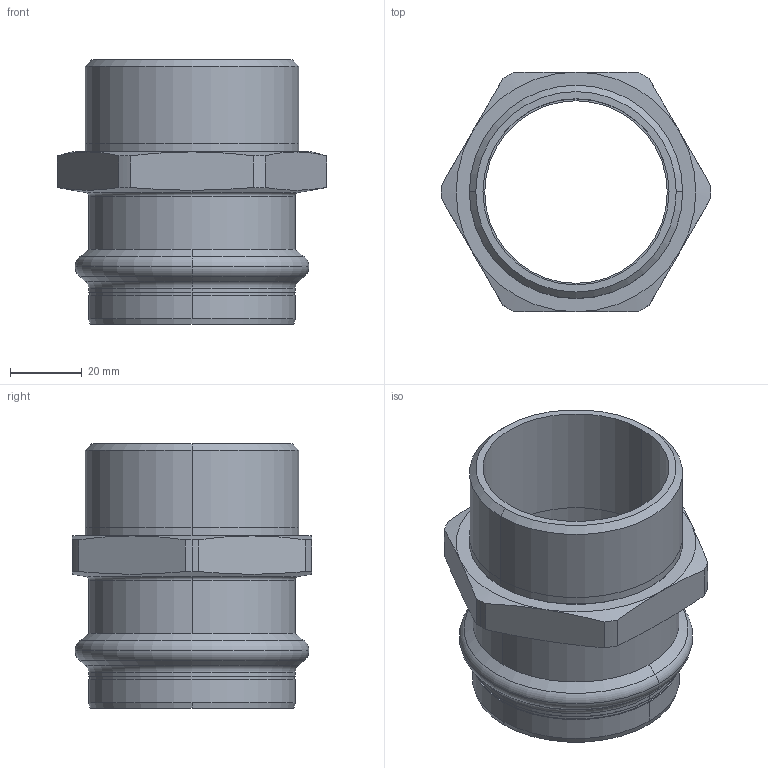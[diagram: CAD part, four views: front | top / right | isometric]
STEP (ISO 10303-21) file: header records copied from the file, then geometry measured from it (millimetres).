
FILE_DESCRIPTION(('CoCreate Modeling STEP Export'),'2;1');
FILE_NAME('8243GVW542.stp','2013-03-05T11:00:17',(''),(''),'CoCreate Modeling STEP processor for AP214 (Solid Model)','CoCreate Modeling 17.00A 17-Jun-2010 (C) Parametric Technology GmbH','');
FILE_SCHEMA(('AUTOMOTIVE_DESIGN { 1 0 10303 214 1 1 1 1 }'));
Length unit declared in the file: millimetre
Products named in the file (1): 8243GVW542
Bounding box: 75.3 x 67 x 73.82 mm (x, y, z)
Volume: 50742.4 mm3; surface area: 30553.4 mm2
Topology: 1 solids, 1 shells, 77 faces, 188 edges, 118 vertices
Faces by surface type: cylinder 32, cone 22, plane 13, torus 10
Entity records: 2614 total; most frequent: CARTESIAN_POINT 1076, ORIENTED_EDGE 376, DIRECTION 238, EDGE_CURVE 188, VERTEX_POINT 118, AXIS2_PLACEMENT_3D 92, EDGE_LOOP 84, FACE_OUTER_BOUND 77
